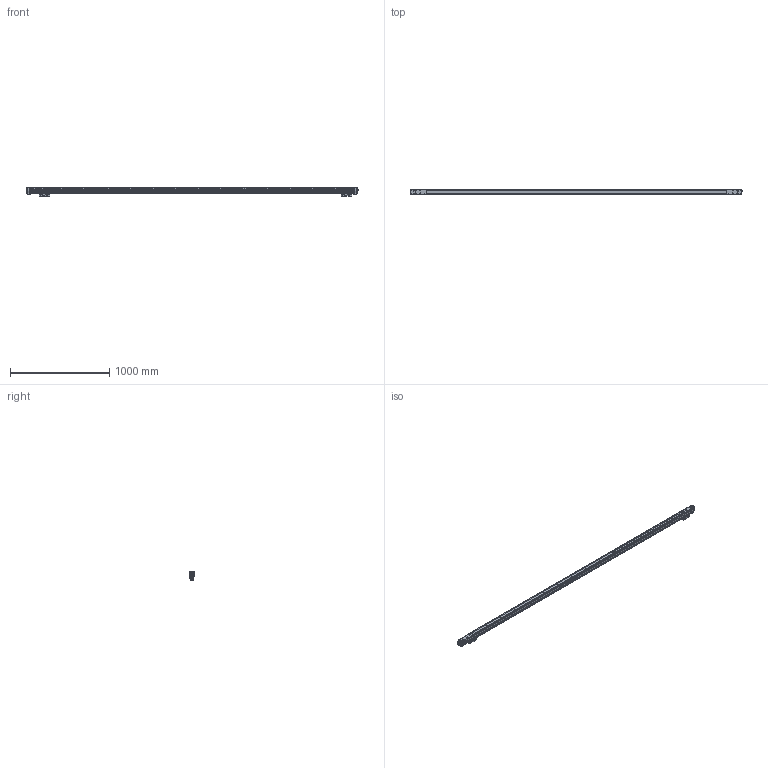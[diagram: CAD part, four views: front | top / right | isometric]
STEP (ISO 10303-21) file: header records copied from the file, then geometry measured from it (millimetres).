
FILE_DESCRIPTION(('Creo Elements/Direct Modeling STEP Export'),'2;1');
FILE_NAME('Li-30-M.stp','2021-04-23T13:17:34',(''),(''),'Creo Elements/Direct Modeling STEP processor for AP214 (Solid Model)','Creo Elements/Direct Modeling 19.0G 27-Nov-2017 (C) Parametric Technology GmbH','');
FILE_SCHEMA(('AUTOMOTIVE_DESIGN { 1 0 10303 214 1 1 1 1 }'));
Length unit declared in the file: millimetre
Products named in the file (3): CABEZA_Li.1; Perfil_Li-30_M; Li-30-M
Assembly tree (3 placements, depth 2):
  Li-30-M
    Perfil_Li-30_M
    CABEZA_Li.1  x2
Bounding box: 3341.61 x 50 x 86.45 mm (x, y, z)
Volume: 8568901.6 mm3; surface area: 1043766.4 mm2
Topology: 5 solids, 47 shells, 3512 faces, 9666 edges, 6297 vertices
Faces by surface type: cylinder 1349, plane 1311, bspline 356, cone 324, torus 144, sphere 28
Entity records: 131911 total; most frequent: CARTESIAN_POINT 53301, ORIENTED_EDGE 15278, DIRECTION 12497, EDGE_CURVE 7639, VERTEX_POINT 4967, AXIS2_PLACEMENT_3D 4536, VECTOR 3425, LINE 3425
